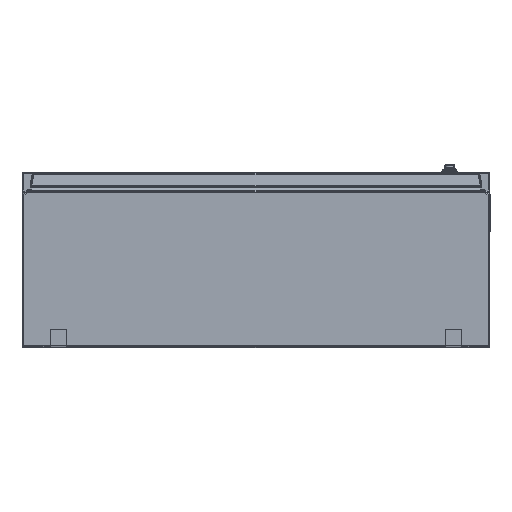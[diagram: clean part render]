
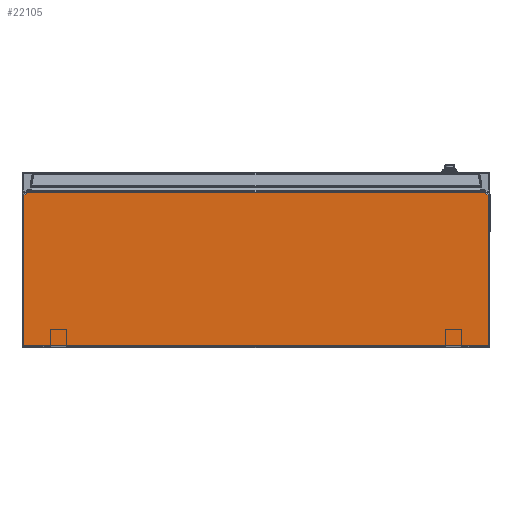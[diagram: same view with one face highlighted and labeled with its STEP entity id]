
A CAD part, front view. The second image highlights one B-rep face of the part: STEP entity #22105.
In plain terms, the highlighted planar face has unit normal (0, -1, 0).
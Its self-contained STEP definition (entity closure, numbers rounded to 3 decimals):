
#636 = PLANE ( 'NONE',  #34166 ) ;
#1773 = VERTEX_POINT ( 'NONE', #23951 ) ;
#3478 = VECTOR ( 'NONE', #18944, 1000. ) ;
#3708 = CARTESIAN_POINT ( 'NONE',  ( 397., -597.5, -300. ) ) ;
#3976 = CARTESIAN_POINT ( 'NONE',  ( 400., -597.5, -35. ) ) ;
#5821 = EDGE_CURVE ( 'NONE', #15874, #22667, #30394, .T. ) ;
#7043 = CARTESIAN_POINT ( 'NONE',  ( -397., -597.5, -39.562 ) ) ;
#7204 = VECTOR ( 'NONE', #22504, 1000. ) ;
#7776 = EDGE_CURVE ( 'NONE', #16575, #9557, #33717, .T. ) ;
#8642 = EDGE_CURVE ( 'NONE', #23639, #15874, #13183, .T. ) ;
#9557 = VERTEX_POINT ( 'NONE', #31719 ) ;
#10602 = CARTESIAN_POINT ( 'NONE',  ( 393.995, -597.5, -37.457 ) ) ;
#10804 = CARTESIAN_POINT ( 'NONE',  ( -397., -597.5, -300. ) ) ;
#10964 = VECTOR ( 'NONE', #15597, 1000. ) ;
#11995 = ORIENTED_EDGE ( 'NONE', *, *, #12863, .T. ) ;
#12503 = CARTESIAN_POINT ( 'NONE',  ( 400., -597.5, -300. ) ) ;
#12863 = EDGE_CURVE ( 'NONE', #22667, #1773, #37309, .T. ) ;
#13183 = LINE ( 'NONE', #25081, #29036 ) ;
#13719 = ORIENTED_EDGE ( 'NONE', *, *, #5821, .T. ) ;
#15597 = DIRECTION ( 'NONE',  ( 0., 0., 1. ) ) ;
#15602 = ORIENTED_EDGE ( 'NONE', *, *, #8642, .T. ) ;
#15856 = DIRECTION ( 'NONE',  ( -1., 0., 0. ) ) ;
#15874 = VERTEX_POINT ( 'NONE', #16568 ) ;
#16568 = CARTESIAN_POINT ( 'NONE',  ( 397., -597.5, -297. ) ) ;
#16575 = VERTEX_POINT ( 'NONE', #36925 ) ;
#17208 = EDGE_LOOP ( 'NONE', ( #13719, #11995, #30812, #19777, #23515, #15602 ) ) ;
#17420 = VECTOR ( 'NONE', #22704, 1000. ) ;
#18939 = EDGE_CURVE ( 'NONE', #9557, #23639, #37516, .T. ) ;
#18944 = DIRECTION ( 'NONE',  ( -0.819, 0., -0.574 ) ) ;
#19777 = ORIENTED_EDGE ( 'NONE', *, *, #7776, .T. ) ;
#20447 = EDGE_CURVE ( 'NONE', #1773, #16575, #21696, .T. ) ;
#20731 = CARTESIAN_POINT ( 'NONE',  ( -397., -597.5, -297. ) ) ;
#21696 = LINE ( 'NONE', #3976, #36133 ) ;
#22105 = ADVANCED_FACE ( 'NONE', ( #27316 ), #636, .T. ) ;
#22504 = DIRECTION ( 'NONE',  ( -0.819, 0., 0.574 ) ) ;
#22667 = VERTEX_POINT ( 'NONE', #33143 ) ;
#22704 = DIRECTION ( 'NONE',  ( 0., 0., -1. ) ) ;
#23515 = ORIENTED_EDGE ( 'NONE', *, *, #18939, .T. ) ;
#23639 = VERTEX_POINT ( 'NONE', #20731 ) ;
#23951 = CARTESIAN_POINT ( 'NONE',  ( 390.485, -597.5, -35. ) ) ;
#24401 = DIRECTION ( 'NONE',  ( 0., -1., 0. ) ) ;
#25081 = CARTESIAN_POINT ( 'NONE',  ( 400., -597.5, -297. ) ) ;
#27316 = FACE_OUTER_BOUND ( 'NONE', #17208, .T. ) ;
#29036 = VECTOR ( 'NONE', #36950, 1000. ) ;
#30394 = LINE ( 'NONE', #3708, #10964 ) ;
#30812 = ORIENTED_EDGE ( 'NONE', *, *, #20447, .T. ) ;
#31719 = CARTESIAN_POINT ( 'NONE',  ( -397., -597.5, -39.562 ) ) ;
#33143 = CARTESIAN_POINT ( 'NONE',  ( 397., -597.5, -39.562 ) ) ;
#33717 = LINE ( 'NONE', #7043, #3478 ) ;
#34166 = AXIS2_PLACEMENT_3D ( 'NONE', #12503, #24401, #36275 ) ;
#36133 = VECTOR ( 'NONE', #15856, 1000. ) ;
#36275 = DIRECTION ( 'NONE',  ( 0., 0., -1. ) ) ;
#36925 = CARTESIAN_POINT ( 'NONE',  ( -390.485, -597.5, -35. ) ) ;
#36950 = DIRECTION ( 'NONE',  ( 1., 0., 0. ) ) ;
#37309 = LINE ( 'NONE', #10602, #7204 ) ;
#37516 = LINE ( 'NONE', #10804, #17420 ) ;
